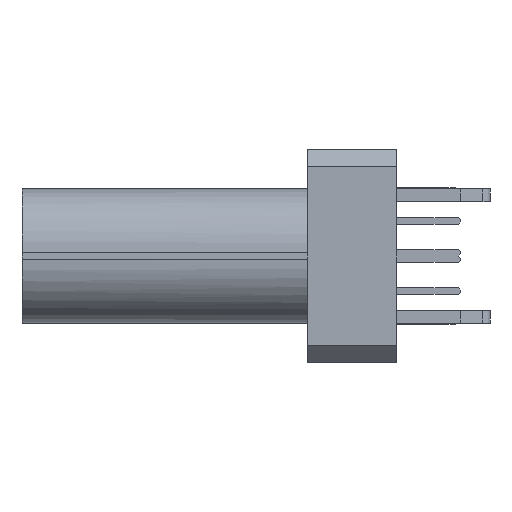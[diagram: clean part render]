
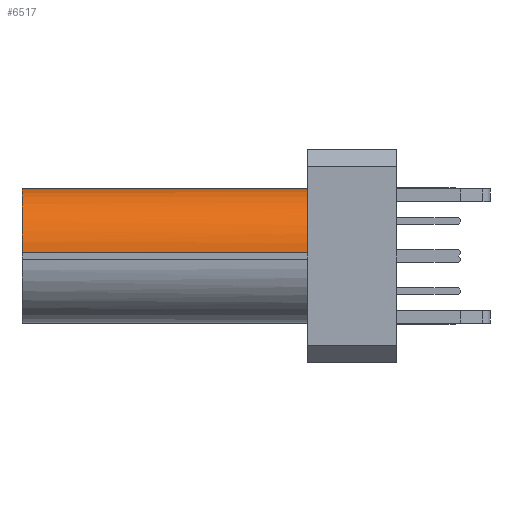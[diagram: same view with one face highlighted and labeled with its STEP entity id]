
A CAD part, left-side view. The second image highlights one B-rep face of the part: STEP entity #6517.
In plain terms, the highlighted cylindrical face has radius 1.5 mm (diameter 3 mm), a partial arc.
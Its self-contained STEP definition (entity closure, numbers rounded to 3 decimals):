
#1575 = EDGE_LOOP ( 'NONE', ( #7506, #7507, #7508, #7509, #7510 ) ) ;
#1757 = FACE_OUTER_BOUND ( 'NONE', #1575, .T. ) ;
#1760 = CYLINDRICAL_SURFACE ( 'NONE', #7209, 1.5 ) ;
#2454 = CIRCLE ( 'NONE', #5513, 1.5 ) ;
#2456 = LINE ( 'NONE', #6184, #2459 ) ;
#2459 = VECTOR ( 'NONE', #6185, 1000. ) ;
#2460 = CIRCLE ( 'NONE', #5514, 1.5 ) ;
#2463 = LINE ( 'NONE', #6192, #2465 ) ;
#2465 = VECTOR ( 'NONE', #6193, 1000. ) ;
#4354 = VERTEX_POINT ( 'NONE', #14014 ) ;
#4541 = VERTEX_POINT ( 'NONE', #13827 ) ;
#4544 = VERTEX_POINT ( 'NONE', #13824 ) ;
#4778 = VERTEX_POINT ( 'NONE', #12799 ) ;
#4780 = VERTEX_POINT ( 'NONE', #12797 ) ;
#5513 = AXIS2_PLACEMENT_3D ( 'NONE', #6186, #6187, #6188 ) ;
#5514 = AXIS2_PLACEMENT_3D ( 'NONE', #6189, #6190, #6191 ) ;
#5674 = AXIS2_PLACEMENT_3D ( 'NONE', #10468, #10469, #10470 ) ;
#6184 = CARTESIAN_POINT ( 'NONE',  ( -13.807, 23.079, -3.106 ) ) ;
#6185 = DIRECTION ( 'NONE',  ( 0., -1., 0. ) ) ;
#6186 = CARTESIAN_POINT ( 'NONE',  ( -13.807, 8.079, -4.606 ) ) ;
#6187 = DIRECTION ( 'NONE',  ( 0., -1., 0. ) ) ;
#6188 = DIRECTION ( 'NONE',  ( 0., 0., -1. ) ) ;
#6189 = CARTESIAN_POINT ( 'NONE',  ( -13.807, 8.079, -4.606 ) ) ;
#6190 = DIRECTION ( 'NONE',  ( 0., -1., 0. ) ) ;
#6191 = DIRECTION ( 'NONE',  ( 0., 0., -1. ) ) ;
#6192 = CARTESIAN_POINT ( 'NONE',  ( -15.307, 23.079, -4.606 ) ) ;
#6193 = DIRECTION ( 'NONE',  ( 0., -1., 0. ) ) ;
#6517 = ADVANCED_FACE ( 'NONE', ( #1757 ), #1760, .T. ) ;
#7034 = EDGE_CURVE ( 'NONE', #4778, #4541, #2456, .T. ) ;
#7035 = EDGE_CURVE ( 'NONE', #4541, #4354, #2454, .T. ) ;
#7036 = EDGE_CURVE ( 'NONE', #4354, #4544, #2460, .T. ) ;
#7039 = EDGE_CURVE ( 'NONE', #4780, #4544, #2463, .T. ) ;
#7209 = AXIS2_PLACEMENT_3D ( 'NONE', #12530, #12535, #12534 ) ;
#7506 = ORIENTED_EDGE ( 'NONE', *, *, #7039, .T. ) ;
#7507 = ORIENTED_EDGE ( 'NONE', *, *, #7036, .F. ) ;
#7508 = ORIENTED_EDGE ( 'NONE', *, *, #7035, .F. ) ;
#7509 = ORIENTED_EDGE ( 'NONE', *, *, #7034, .F. ) ;
#7510 = ORIENTED_EDGE ( 'NONE', *, *, #9647, .T. ) ;
#9647 = EDGE_CURVE ( 'NONE', #4778, #4780, #11971, .T. ) ;
#10468 = CARTESIAN_POINT ( 'NONE',  ( -13.807, 14.779, -4.606 ) ) ;
#10469 = DIRECTION ( 'NONE',  ( 0., -1., 0. ) ) ;
#10470 = DIRECTION ( 'NONE',  ( 0., 0., -1. ) ) ;
#11971 = CIRCLE ( 'NONE', #5674, 1.5 ) ;
#12530 = CARTESIAN_POINT ( 'NONE',  ( -13.807, 23.079, -4.606 ) ) ;
#12534 = DIRECTION ( 'NONE',  ( 0., 0., -1. ) ) ;
#12535 = DIRECTION ( 'NONE',  ( 0., -1., 0. ) ) ;
#12797 = CARTESIAN_POINT ( 'NONE',  ( -15.307, 14.779, -4.606 ) ) ;
#12799 = CARTESIAN_POINT ( 'NONE',  ( -13.807, 14.779, -3.106 ) ) ;
#13824 = CARTESIAN_POINT ( 'NONE',  ( -15.307, 8.079, -4.606 ) ) ;
#13827 = CARTESIAN_POINT ( 'NONE',  ( -13.807, 8.079, -3.106 ) ) ;
#14014 = CARTESIAN_POINT ( 'NONE',  ( -14.746, 8.079, -3.436 ) ) ;
